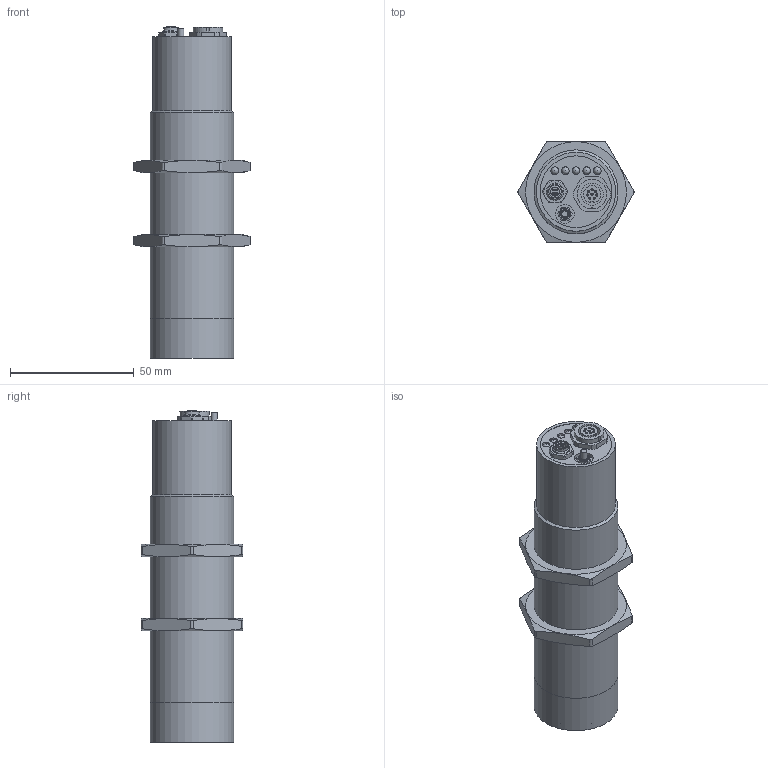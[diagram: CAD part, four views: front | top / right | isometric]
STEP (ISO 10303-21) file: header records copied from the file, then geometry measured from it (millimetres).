
FILE_DESCRIPTION(/* description */ (''),/* implementation_level */ '2;1');
FILE_NAME(/* name */ 'H:\ZVW\Inventor\E-Mail-Zeichnungen\STEP\HOMEPAGE\SPECTRO-3-30-DIL_0397_04.stp',/* time_stamp */ '2014-01-10T12:42:08+01:00',/* author */ ('TK-01'),/* organization */ (''),/* preprocessor_version */ 'ST-DEVELOPER v15.2',/* originating_system */ 'Autodesk Inventor 2014',/* authorisation */ '');
FILE_SCHEMA (('AUTOMOTIVE_DESIGN { 1 0 10303 214 3 1 1 }'));
Length unit declared in the file: millimetre
Products named in the file (1): Bauteil7
Bounding box: 47.03 x 41 x 134.4 mm (x, y, z)
Volume: 120561.7 mm3; surface area: 19630.5 mm2
Topology: 1 solids, 4 shells, 202 faces, 432 edges, 279 vertices
Faces by surface type: plane 86, cylinder 78, cone 32, sphere 5, torus 1
Full cylindrical faces by diameter (mm): 0.5 x12, 2.45 x1, 3 x5, 3.1 x5, 4 x1, 4.2 x1, 5 x1, 6 x1, 7 x1, 7.05 x1, 7.5 x1, 9 x1, 11 x1, 11.1 x1, 12 x1, 12.1 x1, 29 x1, 32 x1, 33 x1, 33.1 x1, 34 x4
Entity records: 5330 total; most frequent: CARTESIAN_POINT 1143, DIRECTION 832, ORIENTED_EDGE 688, AXIS2_PLACEMENT_3D 369, EDGE_CURVE 344, EDGE_LOOP 314, VERTEX_POINT 260, ADVANCED_FACE 202
